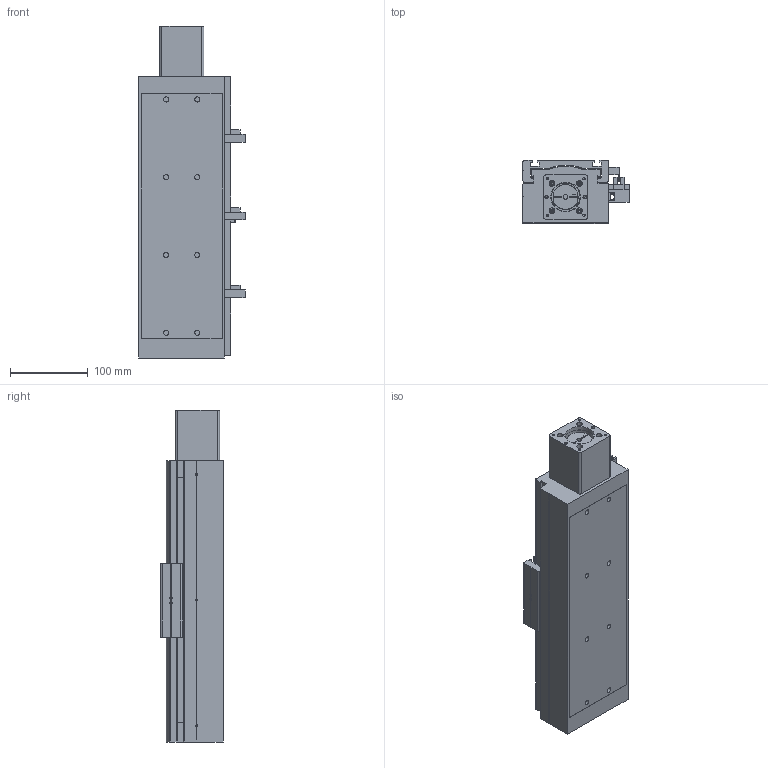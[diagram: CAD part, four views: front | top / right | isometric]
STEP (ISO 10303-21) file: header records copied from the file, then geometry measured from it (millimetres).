
FILE_DESCRIPTION((''),'2;1');
FILE_NAME('E:\libraries\UIA actuator library 2009\standard actuator\UIA110R12(15)DC\UIA110R12(15)DC-ball screw dia.20\UIA110R12(15)DC-_ _ _-R20_ _-M23 step file 20Apr16\UIA110R12(15)DC-200-R20_ _-M23-P13-C10-S.stp','2016-04-21T11:08:13',('h029'),(''),'Autodesk Inventor 11','Autodesk Inventor 11','');
FILE_SCHEMA(('AUTOMOTIVE_DESIGN { 1 0 10303 214 1 1 1 1 }'));
Length unit declared in the file: millimetre
Products named in the file (10): UIA110R12(15)DC-200, ball screw dia.20; body-UIA110R12(15)DC-200,ball screw dia.20; Carriage, UIA110R12(15)DC; Sen Switch, UIA110R12(15)DC; sensor rail, UIA110R12(15)DC-200; SOH-32C; SOH-32C-3; SOH-32C-1; SOH-32C-2; M23 motor mount
Assembly tree (9 placements, depth 3):
  UIA110R12(15)DC-200, ball screw dia.20
    body-UIA110R12(15)DC-200,ball screw dia.20
    Carriage, UIA110R12(15)DC
    Sen Switch, UIA110R12(15)DC
    sensor rail, UIA110R12(15)DC-200
    SOH-32C
      SOH-32C-3
      SOH-32C-1
      SOH-32C-2
    M23 motor mount
Bounding box: 136.5 x 81 x 427 mm (x, y, z)
Volume: 2960717.3 mm3; surface area: 299882.4 mm2
Topology: 8 solids, 8 shells, 587 faces, 1605 edges, 1048 vertices
Faces by surface type: plane 373, cylinder 115, bspline 81, cone 18
Full cylindrical faces by diameter (mm): 2.459 x3, 3.242 x4, 4 x6, 4.5 x4, 5.5 x3, 6.35 x1, 6.5 x8, 7.5 x4, 9.5 x6, 10 x2, 10.5 x8, 12 x1, 25 x1, 32 x3, 37 x1, 38.1 x1, 42 x1, 42.01 x1, 43.5 x1
Entity records: 19124 total; most frequent: CARTESIAN_POINT 4921, DIRECTION 2837, ORIENTED_EDGE 2776, EDGE_CURVE 1388, VERTEX_POINT 975, VECTOR 951, LINE 951, AXIS2_PLACEMENT_3D 943
